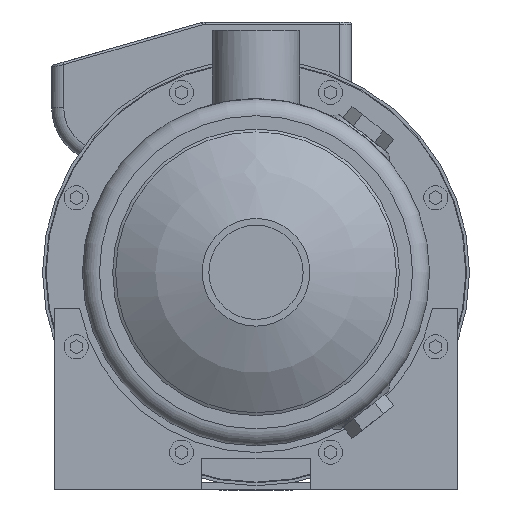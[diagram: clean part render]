
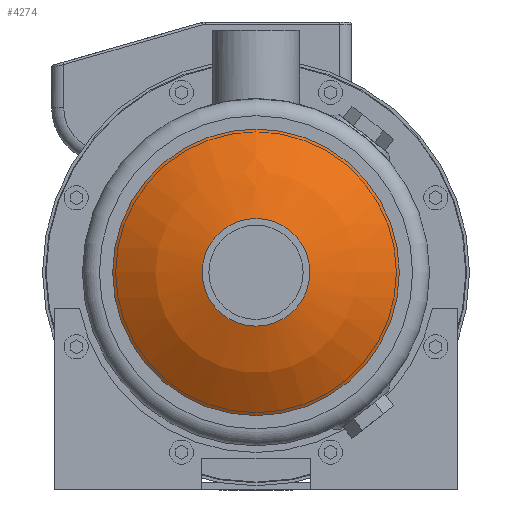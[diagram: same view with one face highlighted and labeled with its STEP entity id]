
A CAD part, left-side view. The second image highlights one B-rep face of the part: STEP entity #4274.
In plain terms, the highlighted spherical face has radius 100 mm.
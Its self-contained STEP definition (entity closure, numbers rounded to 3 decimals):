
#57=SPHERICAL_SURFACE('',#5675,100.);
#969=ORIENTED_EDGE('',*,*,#2136,.T.);
#970=ORIENTED_EDGE('',*,*,#2135,.F.);
#2135=EDGE_CURVE('',#2723,#2723,#3123,.T.);
#2136=EDGE_CURVE('',#2724,#2724,#3124,.T.);
#2723=VERTEX_POINT('',#7616);
#2724=VERTEX_POINT('',#7619);
#3123=CIRCLE('',#5674,22.25);
#3124=CIRCLE('',#5676,59.25);
#3330=EDGE_LOOP('',(#969));
#3331=EDGE_LOOP('',(#970));
#3725=FACE_BOUND('',#3330,.T.);
#3726=FACE_BOUND('',#3331,.T.);
#4274=ADVANCED_FACE('',(#3725,#3726),#57,.T.);
#5674=AXIS2_PLACEMENT_3D('',#7615,#6207,#6208);
#5675=AXIS2_PLACEMENT_3D('',#7617,#6209,#6210);
#5676=AXIS2_PLACEMENT_3D('',#7618,#6211,#6212);
#6207=DIRECTION('',(-1.,0.,0.));
#6208=DIRECTION('',(0.,0.,1.));
#6209=DIRECTION('',(-1.,0.,0.));
#6210=DIRECTION('',(0.,0.,1.));
#6211=DIRECTION('',(-1.,0.,0.));
#6212=DIRECTION('',(0.,0.,1.));
#7615=CARTESIAN_POINT('',(-43.293,0.,0.));
#7616=CARTESIAN_POINT('',(-43.293,0.,22.25));
#7617=CARTESIAN_POINT('',(54.2,0.,0.));
#7618=CARTESIAN_POINT('',(-26.357,0.,0.));
#7619=CARTESIAN_POINT('',(-26.357,0.,59.25));
